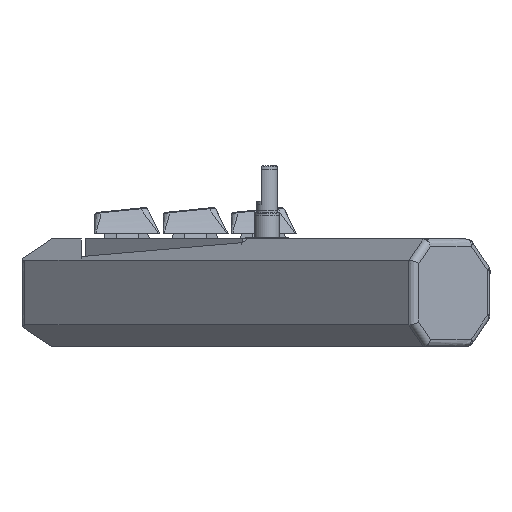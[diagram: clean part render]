
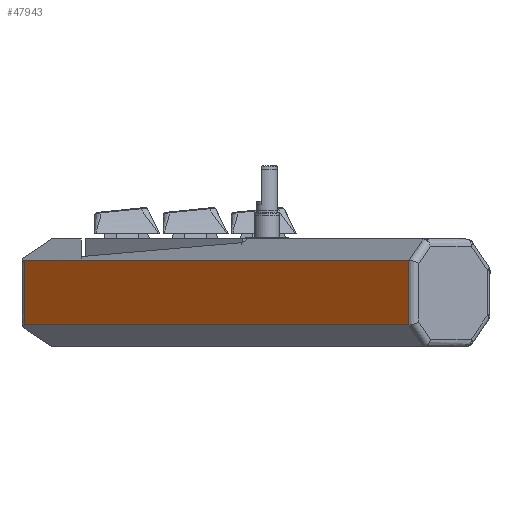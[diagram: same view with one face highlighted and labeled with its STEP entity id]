
A CAD part, left-side view. The second image highlights one B-rep face of the part: STEP entity #47943.
In plain terms, the highlighted planar face has unit normal (-0.741, 0.672, 0).
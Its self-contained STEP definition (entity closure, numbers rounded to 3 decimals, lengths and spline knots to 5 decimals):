
#1066=LINE('',#68316,#4618);
#1067=LINE('',#68324,#4619);
#4618=VECTOR('',#57177,1.);
#4619=VECTOR('',#57178,1.);
#8051=B_SPLINE_CURVE_WITH_KNOTS('',3,(#68319,#68320,#68321,#68322),
 .UNSPECIFIED.,.F.,.F.,(4,4),(0.,1.),.UNSPECIFIED.);
#8052=B_SPLINE_CURVE_WITH_KNOTS('',3,(#68326,#68327,#68328,#68329),
 .UNSPECIFIED.,.F.,.F.,(4,4),(0.,1.),.UNSPECIFIED.);
#11778=PLANE('',#53460);
#13573=ORIENTED_EDGE('',*,*,#27923,.T.);
#13574=ORIENTED_EDGE('',*,*,#27924,.T.);
#13575=ORIENTED_EDGE('',*,*,#27925,.T.);
#13576=ORIENTED_EDGE('',*,*,#27926,.T.);
#27923=EDGE_CURVE('',#35134,#35135,#1066,.T.);
#27924=EDGE_CURVE('',#35135,#35136,#8051,.T.);
#27925=EDGE_CURVE('',#35136,#35137,#1067,.T.);
#27926=EDGE_CURVE('',#35137,#35134,#8052,.T.);
#35134=VERTEX_POINT('',#68317);
#35135=VERTEX_POINT('',#68318);
#35136=VERTEX_POINT('',#68323);
#35137=VERTEX_POINT('',#68325);
#40929=EDGE_LOOP('',(#13573,#13574,#13575,#13576));
#44198=FACE_BOUND('',#40929,.T.);
#47943=ADVANCED_FACE('',(#44198),#11778,.F.);
#53460=AXIS2_PLACEMENT_3D('',#68315,#57175,#57176);
#57175=DIRECTION('',(0.741,-0.672,0.));
#57176=DIRECTION('',(0.672,0.741,0.));
#57177=DIRECTION('',(0.672,0.741,0.));
#57178=DIRECTION('',(-0.672,-0.741,0.));
#68315=CARTESIAN_POINT('',(-0.05,0.00144,0.03));
#68316=CARTESIAN_POINT('',(0.,0.05655,0.024));
#68317=CARTESIAN_POINT('',(-0.09866,-0.05218,0.024));
#68318=CARTESIAN_POINT('',(-0.00148,0.05492,0.024));
#68319=CARTESIAN_POINT('',(-0.00148,0.05492,0.024));
#68320=CARTESIAN_POINT('',(-0.00148,0.05492,0.018));
#68321=CARTESIAN_POINT('',(-0.00148,0.05492,0.012));
#68322=CARTESIAN_POINT('',(-0.00148,0.05492,0.006));
#68323=CARTESIAN_POINT('',(-0.00148,0.05492,0.006));
#68324=CARTESIAN_POINT('',(-0.05,0.00144,0.006));
#68325=CARTESIAN_POINT('',(-0.09866,-0.05218,0.006));
#68326=CARTESIAN_POINT('',(-0.09866,-0.05218,0.006));
#68327=CARTESIAN_POINT('',(-0.09866,-0.05218,0.012));
#68328=CARTESIAN_POINT('',(-0.09866,-0.05218,0.018));
#68329=CARTESIAN_POINT('',(-0.09866,-0.05218,0.024));
